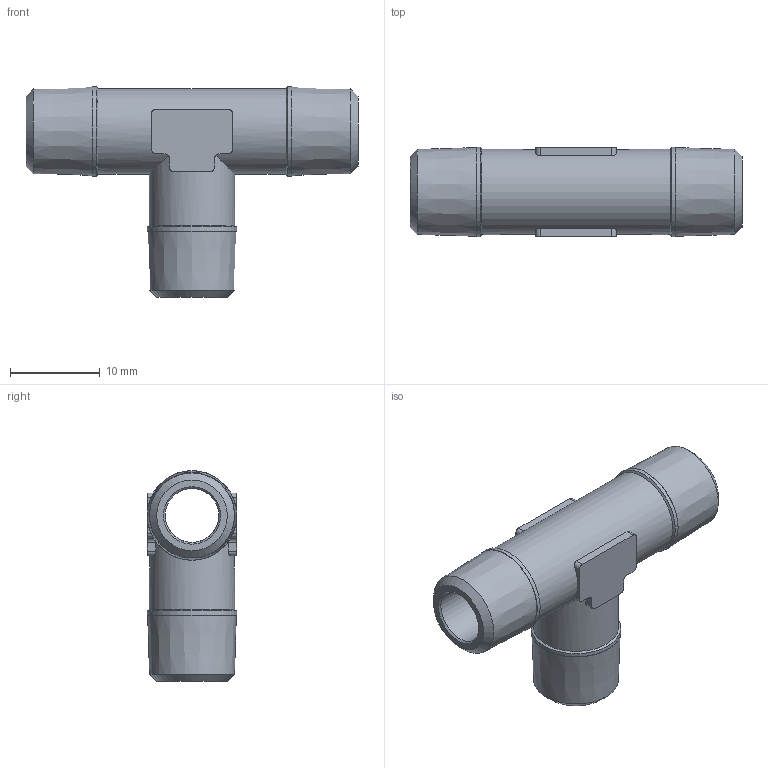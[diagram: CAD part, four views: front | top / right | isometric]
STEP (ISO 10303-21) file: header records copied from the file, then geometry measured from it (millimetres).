
FILE_DESCRIPTION(/* description */ (''),/* implementation_level */ '2;1');
FILE_NAME(/* name */ '40103_116_R18_28.09.16',/* time_stamp */ '2016-09-28T12:19:12+02:00',/* author */ (''),/* organization */ (''),/* preprocessor_version */ 'ST-DEVELOPER v16.5',/* originating_system */ 'HiCAD 2016 2101.0 Build 254',/* authorisation */ '');
FILE_SCHEMA (('AUTOMOTIVE_DESIGN { 1 0 10303 214 1 1 1 1 }'));
Length unit declared in the file: millimetre
Products named in the file (2): Root; 40103
Assembly tree (1 placements, depth 2):
  Root
    40103
Bounding box: 37 x 10 x 23.5 mm (x, y, z)
Volume: 2236.7 mm3; surface area: 2596.8 mm2
Topology: 1 solids, 1 shells, 59 faces, 153 edges, 99 vertices
Faces by surface type: plane 24, cylinder 23, cone 12
Full cylindrical faces by diameter (mm): 6 x2, 9.5 x2, 10 x3
Entity records: 5642 total; most frequent: CARTESIAN_POINT 3001, DIRECTION 280, PRESENTATION_STYLE_ASSIGNMENT 257, COLOUR_RGB 257, DRAUGHTING_PRE_DEFINED_CURVE_FONT 256, CURVE_STYLE 256, OVER_RIDING_STYLED_ITEM 256, ORIENTED_EDGE 256
